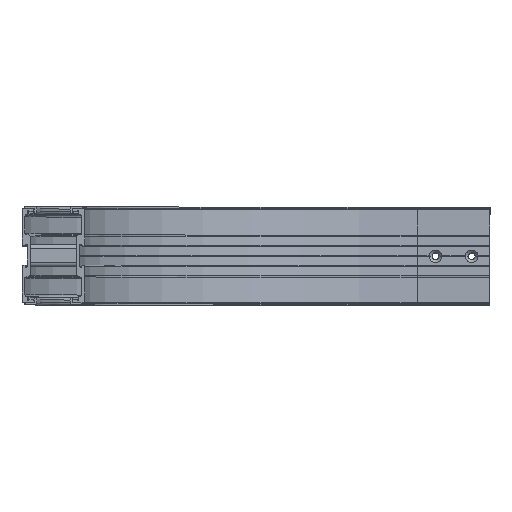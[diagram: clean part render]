
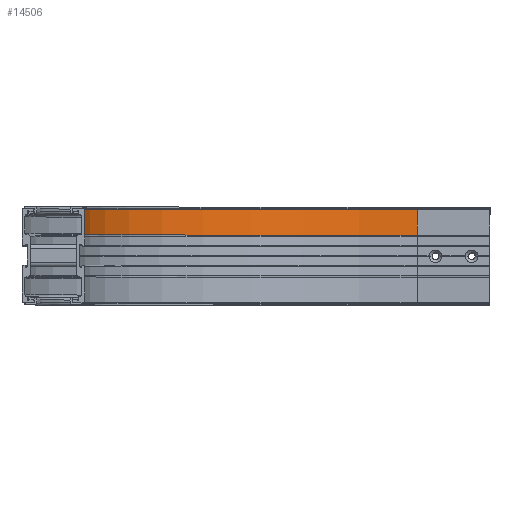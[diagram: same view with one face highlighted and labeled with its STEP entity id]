
A CAD part, top view. The second image highlights one B-rep face of the part: STEP entity #14506.
In plain terms, the highlighted cylindrical face has radius 457 mm (diameter 914 mm), a partial arc.
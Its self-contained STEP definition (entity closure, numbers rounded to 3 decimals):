
#1150 = FACE_OUTER_BOUND ( 'NONE', #8402, .T. ) ;
#1151 = CYLINDRICAL_SURFACE ( 'NONE', #14995, 457. ) ;
#3007 = CARTESIAN_POINT ( 'NONE',  ( 43., 64., -100. ) ) ;
#3128 = CARTESIAN_POINT ( 'NONE',  ( 500., 64., -557. ) ) ;
#3138 = CARTESIAN_POINT ( 'NONE',  ( 500., 29.036, -557. ) ) ;
#3213 = CARTESIAN_POINT ( 'NONE',  ( 43., 29.036, -100. ) ) ;
#4575 = VERTEX_POINT ( 'NONE', #3213 ) ;
#4650 = VERTEX_POINT ( 'NONE', #3138 ) ;
#4660 = VERTEX_POINT ( 'NONE', #3128 ) ;
#4781 = VERTEX_POINT ( 'NONE', #3007 ) ;
#7511 = ORIENTED_EDGE ( 'NONE', *, *, #17869, .T. ) ;
#7512 = ORIENTED_EDGE ( 'NONE', *, *, #17867, .T. ) ;
#7513 = ORIENTED_EDGE ( 'NONE', *, *, #17865, .F. ) ;
#7514 = ORIENTED_EDGE ( 'NONE', *, *, #17864, .F. ) ;
#8402 = EDGE_LOOP ( 'NONE', ( #7511, #7512, #7513, #7514 ) ) ;
#10013 = LINE ( 'NONE', #17018, #10015 ) ;
#10015 = VECTOR ( 'NONE', #17019, 1000. ) ;
#10017 = CIRCLE ( 'NONE', #15322, 457. ) ;
#10019 = LINE ( 'NONE', #17025, #10020 ) ;
#10020 = VECTOR ( 'NONE', #17026, 1000. ) ;
#10022 = CIRCLE ( 'NONE', #15324, 457. ) ;
#13649 = DIRECTION ( 'NONE',  ( 0., 0., 1. ) ) ;
#13650 = DIRECTION ( 'NONE',  ( 0., 1., 0. ) ) ;
#13651 = CARTESIAN_POINT ( 'NONE',  ( 500., 0., -100. ) ) ;
#14506 = ADVANCED_FACE ( 'NONE', ( #1150 ), #1151, .F. ) ;
#14995 = AXIS2_PLACEMENT_3D ( 'NONE', #13651, #13650, #13649 ) ;
#15322 = AXIS2_PLACEMENT_3D ( 'NONE', #17020, #17021, #17022 ) ;
#15324 = AXIS2_PLACEMENT_3D ( 'NONE', #17030, #17031, #17032 ) ;
#17018 = CARTESIAN_POINT ( 'NONE',  ( 500., 29.036, -557. ) ) ;
#17019 = DIRECTION ( 'NONE',  ( 0., -1., 0. ) ) ;
#17020 = CARTESIAN_POINT ( 'NONE',  ( 500., 29.036, -100. ) ) ;
#17021 = DIRECTION ( 'NONE',  ( 0., 1., 0. ) ) ;
#17022 = DIRECTION ( 'NONE',  ( 0., 0., 1. ) ) ;
#17025 = CARTESIAN_POINT ( 'NONE',  ( 43., 29.036, -100. ) ) ;
#17026 = DIRECTION ( 'NONE',  ( 0., -1., 0. ) ) ;
#17030 = CARTESIAN_POINT ( 'NONE',  ( 500., 64., -100. ) ) ;
#17031 = DIRECTION ( 'NONE',  ( 0., 1., 0. ) ) ;
#17032 = DIRECTION ( 'NONE',  ( 0., 0., 1. ) ) ;
#17864 = EDGE_CURVE ( 'NONE', #4660, #4650, #10013, .T. ) ;
#17865 = EDGE_CURVE ( 'NONE', #4650, #4575, #10017, .T. ) ;
#17867 = EDGE_CURVE ( 'NONE', #4781, #4575, #10019, .T. ) ;
#17869 = EDGE_CURVE ( 'NONE', #4660, #4781, #10022, .T. ) ;
